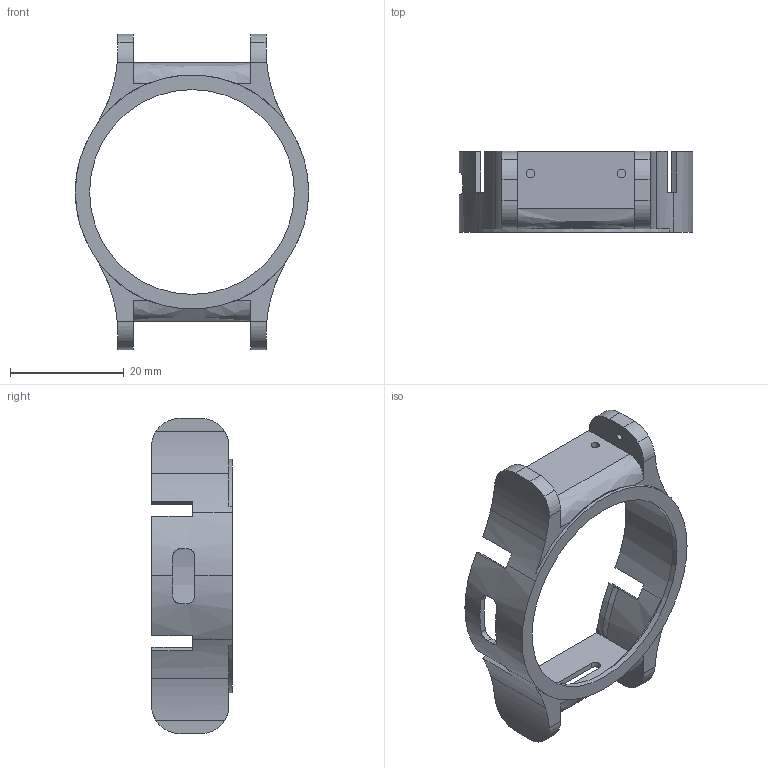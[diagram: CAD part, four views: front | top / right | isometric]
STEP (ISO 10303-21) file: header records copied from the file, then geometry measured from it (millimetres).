
FILE_DESCRIPTION (( 'STEP AP214' ), '1' );
FILE_NAME ('Clock prototype(3).STEP', '2026-05-30T07:47:20', ( '' ), ( '' ), 'SwSTEP 2.0', 'SolidWorks 2026', '' );
FILE_SCHEMA (( 'AUTOMOTIVE_DESIGN' ));
Length unit declared in the file: millimetre
Products named in the file (1): Clock prototype(3)
Bounding box: 41.02 x 14.2 x 55.48 mm (x, y, z)
Volume: 2929.6 mm3; surface area: 5457.5 mm2
Topology: 1 solids, 1 shells, 142 faces, 389 edges, 252 vertices
Faces by surface type: plane 72, cylinder 64, bspline 6
Entity records: 4972 total; most frequent: CARTESIAN_POINT 1288, ORIENTED_EDGE 778, DIRECTION 776, EDGE_CURVE 389, AXIS2_PLACEMENT_3D 291, VERTEX_POINT 252, LINE 194, VECTOR 194
